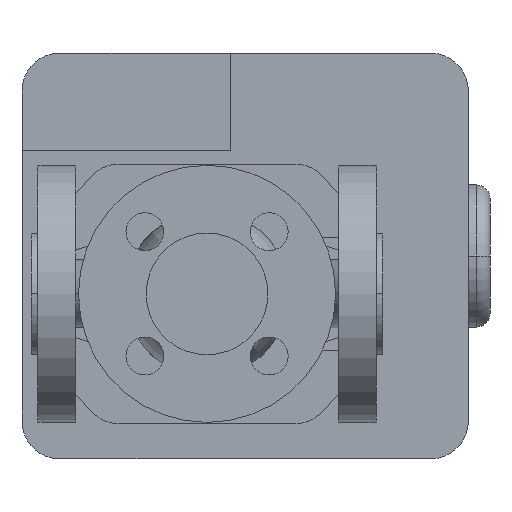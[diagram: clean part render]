
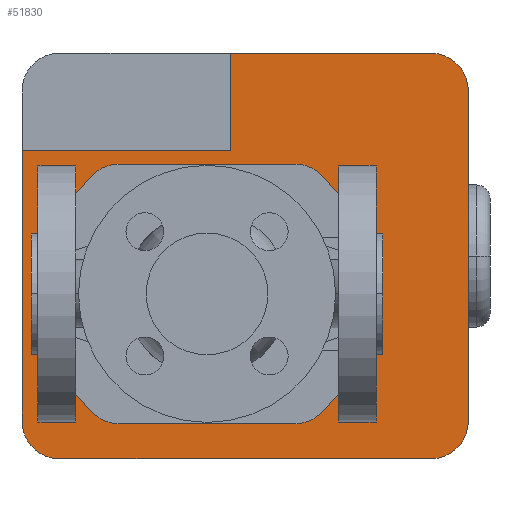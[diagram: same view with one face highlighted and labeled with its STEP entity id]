
A CAD part, front view. The second image highlights one B-rep face of the part: STEP entity #51830.
In plain terms, the highlighted planar face has unit normal (0, -1, 0).
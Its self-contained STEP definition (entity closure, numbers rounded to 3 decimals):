
#40280=CARTESIAN_POINT('',(124.96,313.,11.216));
#40290=VERTEX_POINT('',#40280);
#40320=CARTESIAN_POINT('',(115.,313.,0.));
#40330=DIRECTION('',(0.,1.,0.));
#40340=DIRECTION('',(0.,0.,1.));
#40350=AXIS2_PLACEMENT_3D('',#40320,#40330,#40340);
#40360=CIRCLE('',#40350,15.);
#40370=CARTESIAN_POINT('',(124.96,313.,-11.216));
#40380=VERTEX_POINT('',#40370);
#40390=EDGE_CURVE('',#40290,#40380,#40360,.T.);
#43110=CARTESIAN_POINT('',(107.116,313.,44.128));
#43120=VERTEX_POINT('',#43110);
#43150=CARTESIAN_POINT('',(65.,313.,0.));
#43160=DIRECTION('',(0.,1.,0.));
#43170=DIRECTION('',(0.69,0.,0.723));
#43180=AXIS2_PLACEMENT_3D('',#43150,#43160,#43170);
#43190=CIRCLE('',#43180,61.);
#43200=EDGE_CURVE('',#43120,#40290,#43190,.T.);
#43590=CARTESIAN_POINT('',(5.04,313.,-11.216));
#43600=VERTEX_POINT('',#43590);
#43630=CARTESIAN_POINT('',(15.,313.,0.));
#43640=DIRECTION('',(0.,1.,0.));
#43650=DIRECTION('',(0.,0.,-1.));
#43660=AXIS2_PLACEMENT_3D('',#43630,#43640,#43650);
#43670=CIRCLE('',#43660,15.);
#43680=CARTESIAN_POINT('',(5.04,313.,11.216));
#43690=VERTEX_POINT('',#43680);
#43700=EDGE_CURVE('',#43600,#43690,#43670,.T.);
#44690=CARTESIAN_POINT('',(22.884,313.,-44.128));
#44700=VERTEX_POINT('',#44690);
#44730=CARTESIAN_POINT('',(65.,313.,0.));
#44740=DIRECTION('',(0.,1.,0.));
#44750=DIRECTION('',(-0.69,0.,-0.723));
#44760=AXIS2_PLACEMENT_3D('',#44730,#44740,#44750);
#44770=CIRCLE('',#44760,61.);
#44780=EDGE_CURVE('',#44700,#43600,#44770,.T.);
#50290=CARTESIAN_POINT('',(65.,313.,0.));
#50300=DIRECTION('',(0.,1.,0.));
#50310=DIRECTION('',(0.,0.,1.));
#50320=AXIS2_PLACEMENT_3D('',#50290,#50300,#50310);
#50330=PLANE('',#50320);
#50340=ORIENTED_EDGE('',*,*,#43200,.T.);
#50350=CARTESIAN_POINT('',(97.45,313.,34.));
#50360=DIRECTION('',(0.,1.,0.));
#50370=DIRECTION('',(0.,0.,1.));
#50380=AXIS2_PLACEMENT_3D('',#50350,#50360,#50370);
#50390=CIRCLE('',#50380,14.);
#50400=CARTESIAN_POINT('',(97.45,313.,48.));
#50410=VERTEX_POINT('',#50400);
#50420=EDGE_CURVE('',#50410,#43120,#50390,.T.);
#50430=ORIENTED_EDGE('',*,*,#50420,.T.);
#50440=CARTESIAN_POINT('',(48.775,313.,48.));
#50450=DIRECTION('',(1.,0.,0.));
#50460=VECTOR('',#50450,1.);
#50470=LINE('',#50440,#50460);
#50480=CARTESIAN_POINT('',(32.55,313.,48.));
#50490=VERTEX_POINT('',#50480);
#50500=EDGE_CURVE('',#50490,#50410,#50470,.T.);
#50510=ORIENTED_EDGE('',*,*,#50500,.T.);
#50520=CARTESIAN_POINT('',(32.55,313.,34.));
#50530=DIRECTION('',(0.,1.,0.));
#50540=DIRECTION('',(-0.69,0.,0.723));
#50550=AXIS2_PLACEMENT_3D('',#50520,#50530,#50540);
#50560=CIRCLE('',#50550,14.);
#50570=CARTESIAN_POINT('',(22.884,313.,44.128));
#50580=VERTEX_POINT('',#50570);
#50590=EDGE_CURVE('',#50580,#50490,#50560,.T.);
#50600=ORIENTED_EDGE('',*,*,#50590,.T.);
#50610=CARTESIAN_POINT('',(65.,313.,0.));
#50620=DIRECTION('',(0.,1.,0.));
#50630=DIRECTION('',(-0.69,0.,-0.723));
#50640=AXIS2_PLACEMENT_3D('',#50610,#50620,#50630);
#50650=CIRCLE('',#50640,61.);
#50660=EDGE_CURVE('',#43690,#50580,#50650,.T.);
#50670=ORIENTED_EDGE('',*,*,#50660,.T.);
#50680=ORIENTED_EDGE('',*,*,#43700,.T.);
#50690=ORIENTED_EDGE('',*,*,#44780,.T.);
#50700=CARTESIAN_POINT('',(32.55,313.,-34.));
#50710=DIRECTION('',(0.,1.,0.));
#50720=DIRECTION('',(0.,0.,-1.));
#50730=AXIS2_PLACEMENT_3D('',#50700,#50710,#50720);
#50740=CIRCLE('',#50730,14.);
#50750=CARTESIAN_POINT('',(32.55,313.,-48.));
#50760=VERTEX_POINT('',#50750);
#50770=EDGE_CURVE('',#50760,#44700,#50740,.T.);
#50780=ORIENTED_EDGE('',*,*,#50770,.T.);
#50790=CARTESIAN_POINT('',(81.225,313.,-48.));
#50800=DIRECTION('',(-1.,0.,0.));
#50810=VECTOR('',#50800,1.);
#50820=LINE('',#50790,#50810);
#50830=CARTESIAN_POINT('',(97.45,313.,-48.));
#50840=VERTEX_POINT('',#50830);
#50850=EDGE_CURVE('',#50840,#50760,#50820,.T.);
#50860=ORIENTED_EDGE('',*,*,#50850,.T.);
#50870=CARTESIAN_POINT('',(97.45,313.,-34.));
#50880=DIRECTION('',(0.,1.,0.));
#50890=DIRECTION('',(0.69,0.,-0.723));
#50900=AXIS2_PLACEMENT_3D('',#50870,#50880,#50890);
#50910=CIRCLE('',#50900,14.);
#50920=CARTESIAN_POINT('',(107.116,313.,-44.128));
#50930=VERTEX_POINT('',#50920);
#50940=EDGE_CURVE('',#50930,#50840,#50910,.T.);
#50950=ORIENTED_EDGE('',*,*,#50940,.T.);
#50960=CARTESIAN_POINT('',(65.,313.,0.));
#50970=DIRECTION('',(0.,1.,0.));
#50980=DIRECTION('',(0.69,0.,0.723));
#50990=AXIS2_PLACEMENT_3D('',#50960,#50970,#50980);
#51000=CIRCLE('',#50990,61.);
#51010=EDGE_CURVE('',#40380,#50930,#51000,.T.);
#51020=ORIENTED_EDGE('',*,*,#51010,.T.);
#51030=ORIENTED_EDGE('',*,*,#40390,.T.);
#51040=EDGE_LOOP('',(#51030,#51020,#50950,#50860,#50780,#50690,#50680,
#50670,#50600,#50510,#50430,#50340));
#51050=FACE_BOUND('',#51040,.T.);
#51060=CARTESIAN_POINT('',(73.6,313.,26.5));
#51070=DIRECTION('',(0.,0.,-1.));
#51080=VECTOR('',#51070,1.);
#51090=LINE('',#51060,#51080);
#51100=CARTESIAN_POINT('',(73.6,313.,89.));
#51110=VERTEX_POINT('',#51100);
#51120=CARTESIAN_POINT('',(73.6,313.,53.));
#51130=VERTEX_POINT('',#51120);
#51140=EDGE_CURVE('',#51110,#51130,#51090,.T.);
#51150=ORIENTED_EDGE('',*,*,#51140,.T.);
#51160=CARTESIAN_POINT('',(10.6,313.,89.));
#51170=DIRECTION('',(1.,0.,0.));
#51180=VECTOR('',#51170,1.);
#51190=LINE('',#51160,#51180);
#51200=CARTESIAN_POINT('',(147.6,313.,89.));
#51210=VERTEX_POINT('',#51200);
#51220=EDGE_CURVE('',#51110,#51210,#51190,.T.);
#51230=ORIENTED_EDGE('',*,*,#51220,.F.);
#51240=CARTESIAN_POINT('',(147.6,313.,75.));
#51250=DIRECTION('',(0.,1.,0.));
#51260=DIRECTION('',(0.,0.,1.));
#51270=AXIS2_PLACEMENT_3D('',#51240,#51250,#51260);
#51280=CIRCLE('',#51270,14.);
#51290=CARTESIAN_POINT('',(161.6,313.,75.));
#51300=VERTEX_POINT('',#51290);
#51310=EDGE_CURVE('',#51210,#51300,#51280,.T.);
#51320=ORIENTED_EDGE('',*,*,#51310,.F.);
#51330=CARTESIAN_POINT('',(161.6,313.,75.));
#51340=DIRECTION('',(0.,0.,-1.));
#51350=VECTOR('',#51340,1.);
#51360=LINE('',#51330,#51350);
#51370=CARTESIAN_POINT('',(161.6,313.,-47.));
#51380=VERTEX_POINT('',#51370);
#51390=EDGE_CURVE('',#51300,#51380,#51360,.T.);
#51400=ORIENTED_EDGE('',*,*,#51390,.F.);
#51410=CARTESIAN_POINT('',(147.6,313.,-47.));
#51420=DIRECTION('',(0.,1.,0.));
#51430=DIRECTION('',(1.,0.,0.));
#51440=AXIS2_PLACEMENT_3D('',#51410,#51420,#51430);
#51450=CIRCLE('',#51440,14.);
#51460=CARTESIAN_POINT('',(147.6,313.,-61.));
#51470=VERTEX_POINT('',#51460);
#51480=EDGE_CURVE('',#51380,#51470,#51450,.T.);
#51490=ORIENTED_EDGE('',*,*,#51480,.F.);
#51500=CARTESIAN_POINT('',(147.6,313.,-61.));
#51510=DIRECTION('',(-1.,0.,0.));
#51520=VECTOR('',#51510,1.);
#51530=LINE('',#51500,#51520);
#51540=CARTESIAN_POINT('',(10.6,313.,-61.));
#51550=VERTEX_POINT('',#51540);
#51560=EDGE_CURVE('',#51470,#51550,#51530,.T.);
#51570=ORIENTED_EDGE('',*,*,#51560,.F.);
#51580=CARTESIAN_POINT('',(10.6,313.,-47.));
#51590=DIRECTION('',(0.,1.,0.));
#51600=DIRECTION('',(0.,0.,-1.));
#51610=AXIS2_PLACEMENT_3D('',#51580,#51590,#51600);
#51620=CIRCLE('',#51610,14.);
#51630=CARTESIAN_POINT('',(-3.4,313.,-47.));
#51640=VERTEX_POINT('',#51630);
#51650=EDGE_CURVE('',#51550,#51640,#51620,.T.);
#51660=ORIENTED_EDGE('',*,*,#51650,.F.);
#51670=CARTESIAN_POINT('',(-3.4,313.,-47.));
#51680=DIRECTION('',(0.,0.,1.));
#51690=VECTOR('',#51680,1.);
#51700=LINE('',#51670,#51690);
#51710=CARTESIAN_POINT('',(-3.4,313.,53.));
#51720=VERTEX_POINT('',#51710);
#51730=EDGE_CURVE('',#51640,#51720,#51700,.T.);
#51740=ORIENTED_EDGE('',*,*,#51730,.F.);
#51750=CARTESIAN_POINT('',(30.3,313.,53.));
#51760=DIRECTION('',(-1.,0.,0.));
#51770=VECTOR('',#51760,1.);
#51780=LINE('',#51750,#51770);
#51790=EDGE_CURVE('',#51130,#51720,#51780,.T.);
#51800=ORIENTED_EDGE('',*,*,#51790,.T.);
#51810=EDGE_LOOP('',(#51800,#51740,#51660,#51570,#51490,#51400,#51320,
#51230,#51150));
#51820=FACE_OUTER_BOUND('',#51810,.T.);
#51830=ADVANCED_FACE('',(#51050,#51820),#50330,.F.);
